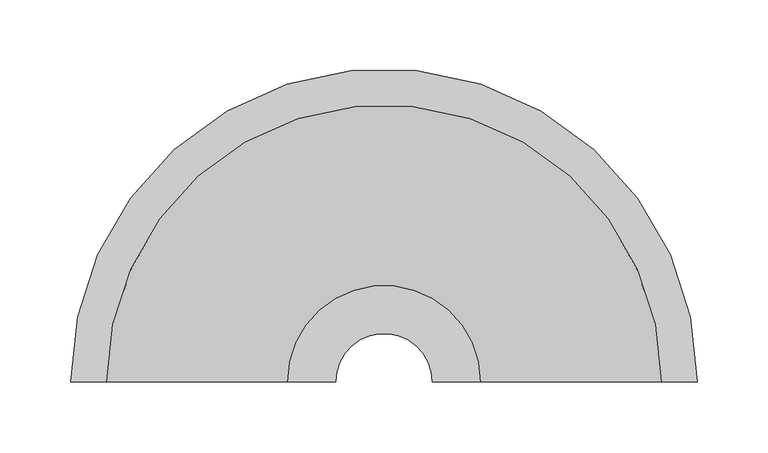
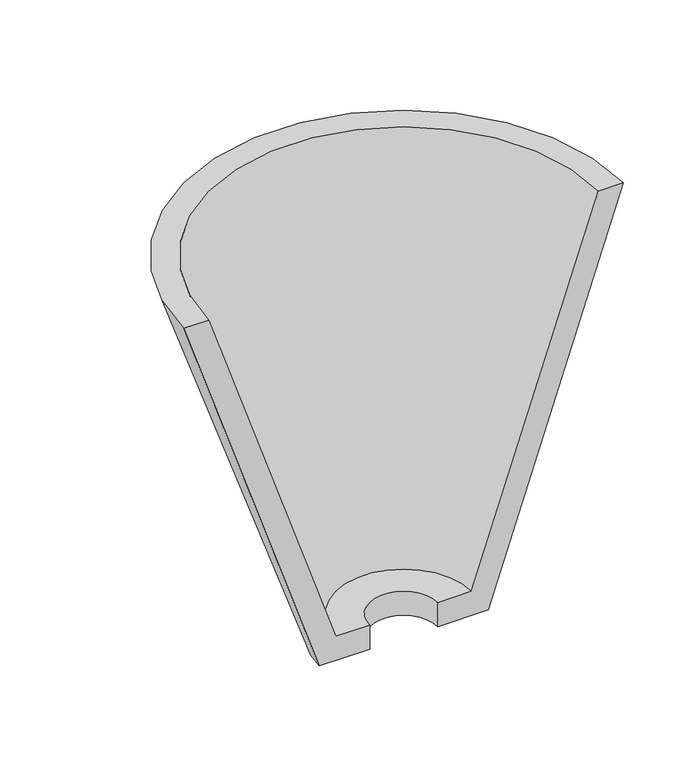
"""IFC4 building model written with IfcOpenShell, lengths in millimetres: light fixture geometry, M_Applique : 100 watt Incandescente."""

from ifc_helpers import new_model, si_unit, frame, origin, place, context, project, spatial, polyline, circle_curve, source, transform, mapped, element, save
from ifc_brep_helpers import plane_surface, revolved_surface, advanced_brep


def light_fixture_c6ae0c23(model_context):
    return source(origin(), model_context, "Body", "AdvancedBrep", [
        advanced_brep(
        [(-221.2056669, 175.0, 2103.2), (-85.0253975, 175.0, 1696.8), (-34.2253975, 175.0, 1696.8), (-34.2253975, 175.0, 1722.2), (-68.1366644, 175.0, 1722.2), (-195.8056669, 175.0, 2103.2), (221.2056669, 175.0, 2103.2), (195.8056669, 175.0, 2103.2), (68.1366644, 175.0, 1722.2), (34.2253975, 175.0, 1722.2), (34.2253975, 175.0, 1696.8), (85.0253975, 175.0, 1696.8)],
        [
            (0, 1),
            (1, 2),
            (2, 3),
            (3, 4),
            (4, 5),
            (5, 0),
            (6, 7),
            (7, 8),
            (8, 9),
            (9, 10),
            (10, 11),
            (11, 6),
            (11, 1, circle_curve(frame((0.0, 175.0, 1696.8), z_axis=(0.0, 0.0, 1.0), x_axis=(-1.0, 0.0, 0.0)), 85.0253975)),
            (0, 6, circle_curve(frame((0.0, 175.0, 2103.2), z_axis=(0.0, 0.0, -1.0), x_axis=(-1.0, 0.0, 0.0)), 221.2056669)),
            (10, 2, circle_curve(frame((0.0, 175.0, 1696.8), z_axis=(0.0, 0.0, 1.0), x_axis=(-1.0, 0.0, 0.0)), 34.2253975)),
            (9, 3, circle_curve(frame((0.0, 175.0, 1722.2), z_axis=(0.0, 0.0, 1.0), x_axis=(-1.0, 0.0, 0.0)), 34.2253975)),
            (8, 4, circle_curve(frame((0.0, 175.0, 1722.2), z_axis=(0.0, 0.0, 1.0), x_axis=(-1.0, 0.0, 0.0)), 68.1366644)),
            (7, 5, circle_curve(frame((0.0, 175.0, 2103.2), z_axis=(0.0, 0.0, 1.0), x_axis=(-1.0, 0.0, 0.0)), 195.8056669)),
        ],
        [
            plane_surface(frame((0.0, 175.0, 1936.774367), z_axis=(0.0, -1.0, 0.0), x_axis=(-1.0, 0.0, 0.0))),
            plane_surface(frame((0.0, 175.0, 1936.774367), z_axis=(0.0, -1.0, 0.0), x_axis=(1.0, 0.0, 0.0))),
            revolved_surface(polyline([(-221.2056669, 175.0, 2103.2), (-85.0253975, 175.0, 1696.8)]), (0.0, 175.0, 1936.774367), (0.0, 0.0, -1.0)),
            plane_surface(frame((0.0, 175.0, 1696.8), z_axis=(0.0, 0.0, -1.0), x_axis=(-1.0, 0.0, 0.0))),
            revolved_surface(polyline([(-34.2253975, 175.0, 1696.8), (-34.2253975, 175.0, 1722.2)]), (0.0, 175.0, 1936.774367), (0.0, 0.0, -1.0)),
            plane_surface(frame((0.0, 175.0, 1722.2), z_axis=(0.0, 0.0, 1.0), x_axis=(-1.0, 0.0, 0.0))),
            revolved_surface(polyline([(-68.1366644, 175.0, 1722.2), (-195.8056669, 175.0, 2103.2)]), (0.0, 175.0, 1936.774367), (0.0, 0.0, -1.0)),
            plane_surface(frame((0.0, 175.0, 2103.2), z_axis=(0.0, 0.0, 1.0), x_axis=(-1.0, 0.0, 0.0))),
        ],
        [
            (0, [[1, 2, 3, 4, 5, 6]]),
            (1, [[7, 8, 9, 10, 11, 12]]),
            (2, [[13, -1, 14, -12]]),
            (3, [[15, -2, -13, -11]]),
            (4, [[16, -3, -15, -10]]),
            (5, [[17, -4, -16, -9]]),
            (6, [[18, -5, -17, -8]]),
            (7, [[-14, -6, -18, -7]]),
        ],
    ),
    ])


if __name__ == "__main__":
    model = new_model("IFC4")
    model_context = context("Model", 3, world=origin())
    ifc_project = project(units=[si_unit("LENGTHUNIT", "METRE", prefix="MILLI")], contexts=[model_context])
    site = spatial("IfcSite", under=ifc_project)
    building = spatial("IfcBuilding", under=site)
    placement = place(None, origin())
    light_fixture_shape = light_fixture_c6ae0c23(model_context)
    element("IfcLightFixture", 1, ObjectType="M_Applique : 100 watt Incandescente", at=placement, inside=building, context=model_context, shape_type="MappedRepresentation", body=[
        mapped(light_fixture_shape, transform((0.0, 0.0, 0.0), x_axis=(1.0, 0.0, 0.0), y_axis=(0.0, 1.0, 0.0), z_axis=(0.0, 0.0, 1.0))),
    ])
    save(model, "model.ifc")
